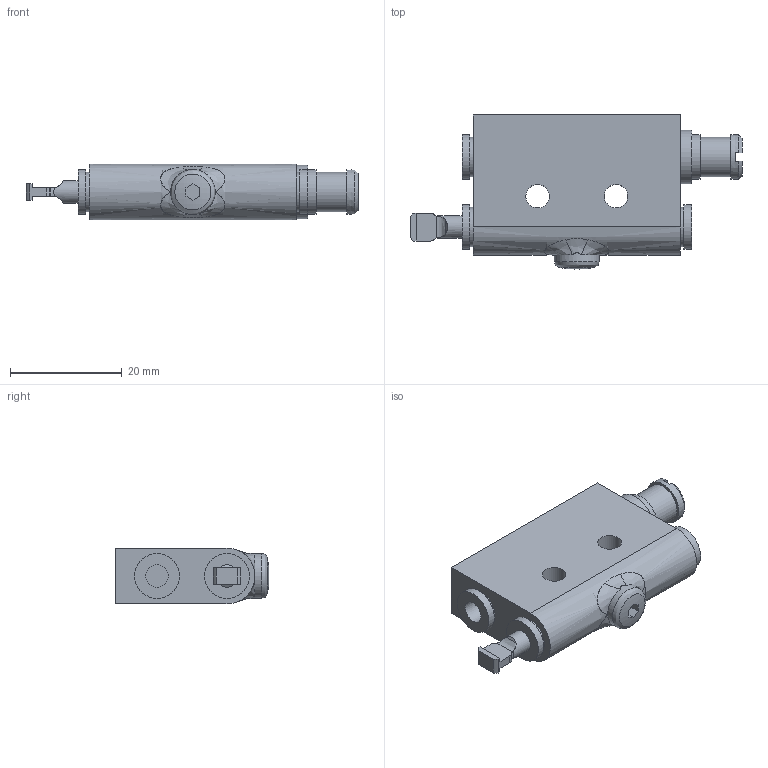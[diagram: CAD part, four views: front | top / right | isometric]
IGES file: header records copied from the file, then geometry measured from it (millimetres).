
Global section: file name: No Iges File Name specified; native system: AutoDesk Inventor R5.0; preprocessor: AutoDesk Inventor Iges Exporter R5.0; author: No Author specified; organization: No Organization specified; date: 20070112.195827; units: millimetre
Bounding box: 59.3 x 27.5 x 10 mm (x, y, z)
Surface area: 4218.1 mm2 (no closed solid volume)
Topology: 0 solids, 0 shells, 154 faces, 1466 edges, 1426 vertices
Faces by surface type: plane 94, revolution 51, bspline 9
